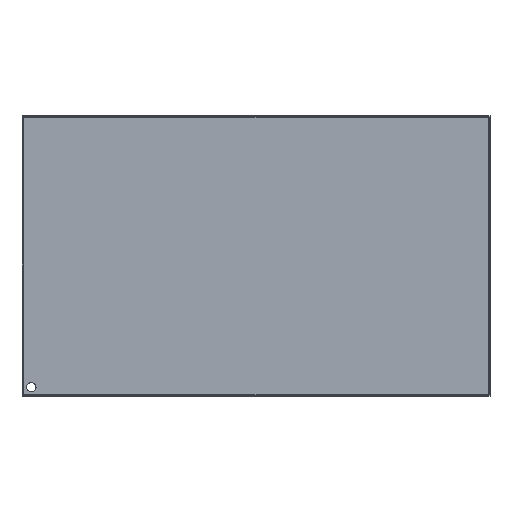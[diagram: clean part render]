
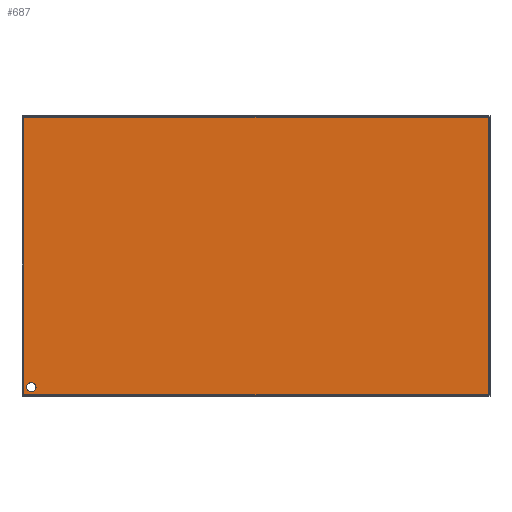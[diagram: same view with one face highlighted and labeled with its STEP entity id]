
A CAD part, top view. The second image highlights one B-rep face of the part: STEP entity #687.
In plain terms, the highlighted planar face has unit normal (0, 0, 1).
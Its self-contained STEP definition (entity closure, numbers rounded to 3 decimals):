
#17=FACE_BOUND('',#130,.T.);
#39=PLANE('',#764);
#82=FACE_OUTER_BOUND('',#129,.T.);
#129=EDGE_LOOP('',(#577,#578,#579,#580));
#130=EDGE_LOOP('',(#581));
#166=LINE('',#1047,#240);
#176=LINE('',#1077,#250);
#193=LINE('',#1119,#267);
#195=LINE('',#1126,#269);
#240=VECTOR('',#844,10.);
#250=VECTOR('',#874,10.);
#267=VECTOR('',#919,10.);
#269=VECTOR('',#929,10.);
#295=CIRCLE('',#719,5.);
#315=VERTEX_POINT('',#992);
#329=VERTEX_POINT('',#1033);
#330=VERTEX_POINT('',#1037);
#341=VERTEX_POINT('',#1076);
#352=VERTEX_POINT('',#1118);
#368=EDGE_CURVE('',#315,#315,#295,.T.);
#394=EDGE_CURVE('',#329,#330,#166,.T.);
#408=EDGE_CURVE('',#341,#329,#176,.T.);
#429=EDGE_CURVE('',#352,#341,#193,.T.);
#433=EDGE_CURVE('',#330,#352,#195,.T.);
#577=ORIENTED_EDGE('',*,*,#394,.T.);
#578=ORIENTED_EDGE('',*,*,#433,.T.);
#579=ORIENTED_EDGE('',*,*,#429,.T.);
#580=ORIENTED_EDGE('',*,*,#408,.T.);
#581=ORIENTED_EDGE('',*,*,#368,.T.);
#687=ADVANCED_FACE('',(#82,#17),#39,.F.);
#719=AXIS2_PLACEMENT_3D('',#994,#789,#790);
#764=AXIS2_PLACEMENT_3D('',#1125,#927,#928);
#789=DIRECTION('center_axis',(0.,0.,-1.));
#790=DIRECTION('ref_axis',(-1.,0.,0.));
#844=DIRECTION('',(0.,1.,0.));
#874=DIRECTION('',(1.,0.,0.));
#919=DIRECTION('',(0.,-1.,0.));
#927=DIRECTION('center_axis',(0.,0.,-1.));
#928=DIRECTION('ref_axis',(0.,1.,0.));
#929=DIRECTION('',(-1.,0.,0.));
#992=CARTESIAN_POINT('',(15.,10.,0.));
#994=CARTESIAN_POINT('Origin',(10.,10.,0.));
#1033=CARTESIAN_POINT('',(498.,2.,0.));
#1037=CARTESIAN_POINT('',(498.,298.,0.));
#1047=CARTESIAN_POINT('',(498.,1.,0.));
#1076=CARTESIAN_POINT('',(2.,2.,0.));
#1077=CARTESIAN_POINT('',(1.,2.,0.));
#1118=CARTESIAN_POINT('',(2.,298.,0.));
#1119=CARTESIAN_POINT('',(2.,150.,0.));
#1125=CARTESIAN_POINT('Origin',(0.,0.,0.));
#1126=CARTESIAN_POINT('',(250.,298.,0.));
